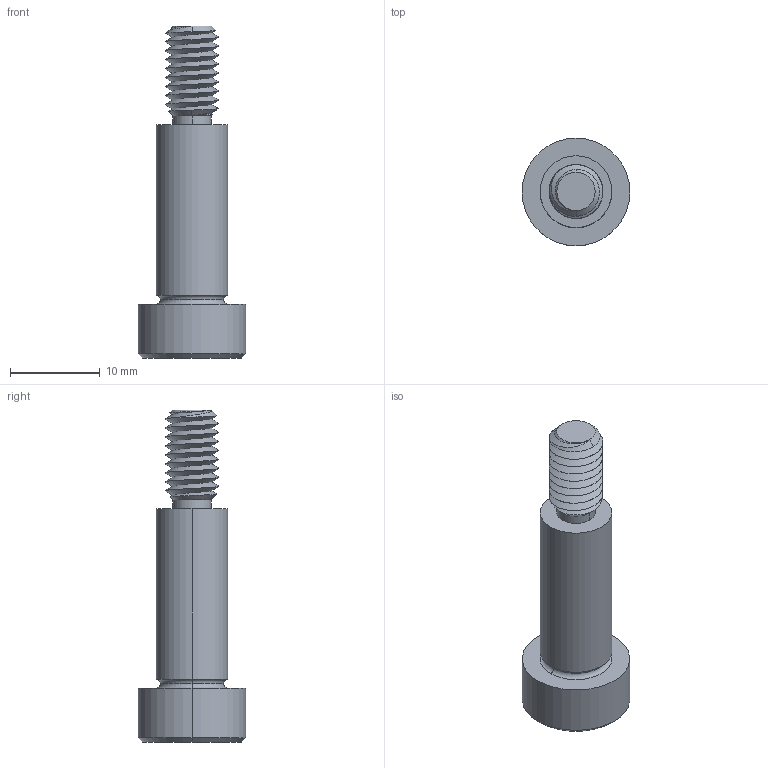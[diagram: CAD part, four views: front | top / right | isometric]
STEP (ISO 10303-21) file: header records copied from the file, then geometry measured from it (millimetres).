
FILE_DESCRIPTION (( 'STEP AP203' ), '1' );
FILE_NAME ('P0130.080-020-B2.step', '2021-11-09T21:38:30', ( '' ), ( '' ), 'SwSTEP 2.0', 'SolidWorks 2019', '' );
FILE_SCHEMA (( 'CONFIG_CONTROL_DESIGN' ));
Length unit declared in the file: millimetre
Products named in the file (1): P0130.080-020-B2
Bounding box: 12 x 12 x 37 mm (x, y, z)
Volume: 1832.3 mm3; surface area: 1335.5 mm2
Topology: 1 solids, 1 shells, 60 faces, 142 edges, 85 vertices
Faces by surface type: cylinder 24, plane 16, cone 14, torus 4, bspline 2
Entity records: 4245 total; most frequent: CARTESIAN_POINT 2899, ORIENTED_EDGE 280, DIRECTION 247, EDGE_CURVE 140, AXIS2_PLACEMENT_3D 99, VERTEX_POINT 85, EDGE_LOOP 63, ADVANCED_FACE 60
